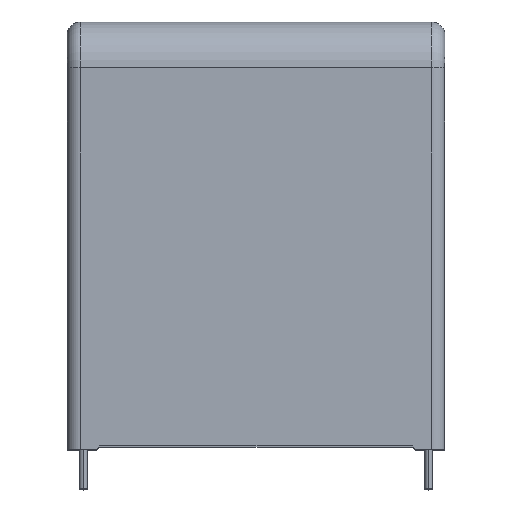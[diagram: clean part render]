
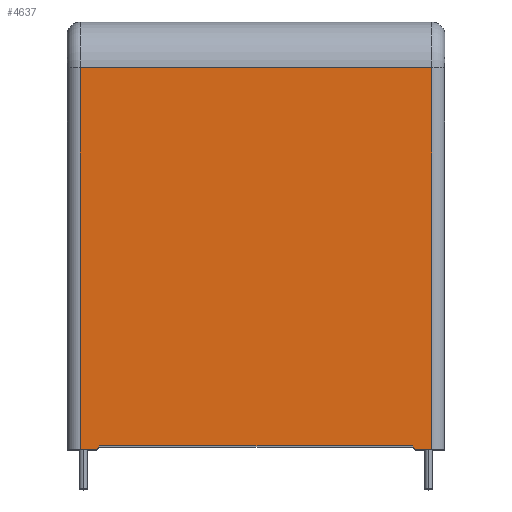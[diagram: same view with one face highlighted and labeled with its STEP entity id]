
A CAD part, top view. The second image highlights one B-rep face of the part: STEP entity #4637.
In plain terms, the highlighted planar face has unit normal (0, 0, 1).
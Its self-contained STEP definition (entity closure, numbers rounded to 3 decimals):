
#53 = ORIENTED_EDGE ( 'NONE', *, *, #636, .T. ) ;
#58 = ORIENTED_EDGE ( 'NONE', *, *, #362, .T. ) ;
#68 = ORIENTED_EDGE ( 'NONE', *, *, #98, .F. ) ;
#98 = EDGE_CURVE ( 'NONE', #2266, #3781, #3131, .T. ) ;
#218 = CARTESIAN_POINT ( 'NONE',  ( -24.25, 0., 65. ) ) ;
#362 = EDGE_CURVE ( 'NONE', #3647, #3781, #981, .T. ) ;
#390 = CARTESIAN_POINT ( 'NONE',  ( -28.75, 0., 65. ) ) ;
#636 = EDGE_CURVE ( 'NONE', #3556, #3647, #4098, .T. ) ;
#674 = CARTESIAN_POINT ( 'NONE',  ( 23.75, 0.5, 65. ) ) ;
#772 = VECTOR ( 'NONE', #2730, 1000. ) ;
#921 = EDGE_CURVE ( 'NONE', #2252, #3556, #2483, .T. ) ;
#933 = DIRECTION ( 'NONE',  ( 0., -1., 0. ) ) ;
#955 = CARTESIAN_POINT ( 'NONE',  ( -26.75, 65., 65. ) ) ;
#981 = LINE ( 'NONE', #2760, #772 ) ;
#1190 = EDGE_CURVE ( 'NONE', #2160, #2252, #4616, .T. ) ;
#1335 = CARTESIAN_POINT ( 'NONE',  ( -26.75, 58., 65. ) ) ;
#1450 = EDGE_CURVE ( 'NONE', #1732, #2602, #2912, .T. ) ;
#1536 = DIRECTION ( 'NONE',  ( -1., 0., 0. ) ) ;
#1553 = CARTESIAN_POINT ( 'NONE',  ( -23.75, 0.5, 65. ) ) ;
#1578 = VECTOR ( 'NONE', #4366, 1000. ) ;
#1597 = CARTESIAN_POINT ( 'NONE',  ( 26.75, 0., 65. ) ) ;
#1605 = CARTESIAN_POINT ( 'NONE',  ( 24.25, 0., 65. ) ) ;
#1727 = EDGE_CURVE ( 'NONE', #2602, #2266, #3672, .T. ) ;
#1732 = VERTEX_POINT ( 'NONE', #1605 ) ;
#1768 = EDGE_LOOP ( 'NONE', ( #4693, #4813, #4877, #5078, #5120, #53, #58, #68 ) ) ;
#1783 = CARTESIAN_POINT ( 'NONE',  ( -26.75, 0., 65. ) ) ;
#1925 = DIRECTION ( 'NONE',  ( -1., 0., 0. ) ) ;
#2045 = CARTESIAN_POINT ( 'NONE',  ( -23.75, 0.5, 65. ) ) ;
#2160 = VERTEX_POINT ( 'NONE', #1597 ) ;
#2252 = VERTEX_POINT ( 'NONE', #4400 ) ;
#2266 = VERTEX_POINT ( 'NONE', #2045 ) ;
#2342 = VECTOR ( 'NONE', #4264, 1000. ) ;
#2389 = VECTOR ( 'NONE', #3092, 1000. ) ;
#2483 = LINE ( 'NONE', #4398, #2342 ) ;
#2602 = VERTEX_POINT ( 'NONE', #3466 ) ;
#2730 = DIRECTION ( 'NONE',  ( 1., 0., 0. ) ) ;
#2742 = CARTESIAN_POINT ( 'NONE',  ( -28.75, 65., 65. ) ) ;
#2760 = CARTESIAN_POINT ( 'NONE',  ( -28.75, 0., 65. ) ) ;
#2865 = DIRECTION ( 'NONE',  ( 0., 1., 0. ) ) ;
#2872 = CARTESIAN_POINT ( 'NONE',  ( 26.75, 65., 65. ) ) ;
#2912 = LINE ( 'NONE', #674, #2389 ) ;
#2931 = VECTOR ( 'NONE', #4826, 1000. ) ;
#3092 = DIRECTION ( 'NONE',  ( -0.707, 0.707, 0. ) ) ;
#3131 = LINE ( 'NONE', #4778, #2931 ) ;
#3279 = AXIS2_PLACEMENT_3D ( 'NONE', #2742, #4274, #1925 ) ;
#3383 = VECTOR ( 'NONE', #1536, 1000. ) ;
#3466 = CARTESIAN_POINT ( 'NONE',  ( 23.75, 0.5, 65. ) ) ;
#3497 = PLANE ( 'NONE',  #3279 ) ;
#3556 = VERTEX_POINT ( 'NONE', #1335 ) ;
#3572 = LINE ( 'NONE', #390, #1578 ) ;
#3647 = VERTEX_POINT ( 'NONE', #1783 ) ;
#3672 = LINE ( 'NONE', #1553, #3383 ) ;
#3781 = VERTEX_POINT ( 'NONE', #218 ) ;
#4098 = LINE ( 'NONE', #955, #4291 ) ;
#4251 = FACE_OUTER_BOUND ( 'NONE', #1768, .T. ) ;
#4264 = DIRECTION ( 'NONE',  ( -1., 0., 0. ) ) ;
#4274 = DIRECTION ( 'NONE',  ( 0., 0., -1. ) ) ;
#4291 = VECTOR ( 'NONE', #933, 1000. ) ;
#4366 = DIRECTION ( 'NONE',  ( 1., 0., 0. ) ) ;
#4398 = CARTESIAN_POINT ( 'NONE',  ( -28.75, 58., 65. ) ) ;
#4400 = CARTESIAN_POINT ( 'NONE',  ( 26.75, 58., 65. ) ) ;
#4558 = VECTOR ( 'NONE', #2865, 1000. ) ;
#4616 = LINE ( 'NONE', #2872, #4558 ) ;
#4637 = ADVANCED_FACE ( 'NONE', ( #4251 ), #3497, .F. ) ;
#4693 = ORIENTED_EDGE ( 'NONE', *, *, #1727, .F. ) ;
#4778 = CARTESIAN_POINT ( 'NONE',  ( -24.25, 0., 65. ) ) ;
#4813 = ORIENTED_EDGE ( 'NONE', *, *, #1450, .F. ) ;
#4826 = DIRECTION ( 'NONE',  ( -0.707, -0.707, 0. ) ) ;
#4877 = ORIENTED_EDGE ( 'NONE', *, *, #5118, .T. ) ;
#5078 = ORIENTED_EDGE ( 'NONE', *, *, #1190, .T. ) ;
#5118 = EDGE_CURVE ( 'NONE', #1732, #2160, #3572, .T. ) ;
#5120 = ORIENTED_EDGE ( 'NONE', *, *, #921, .T. ) ;
